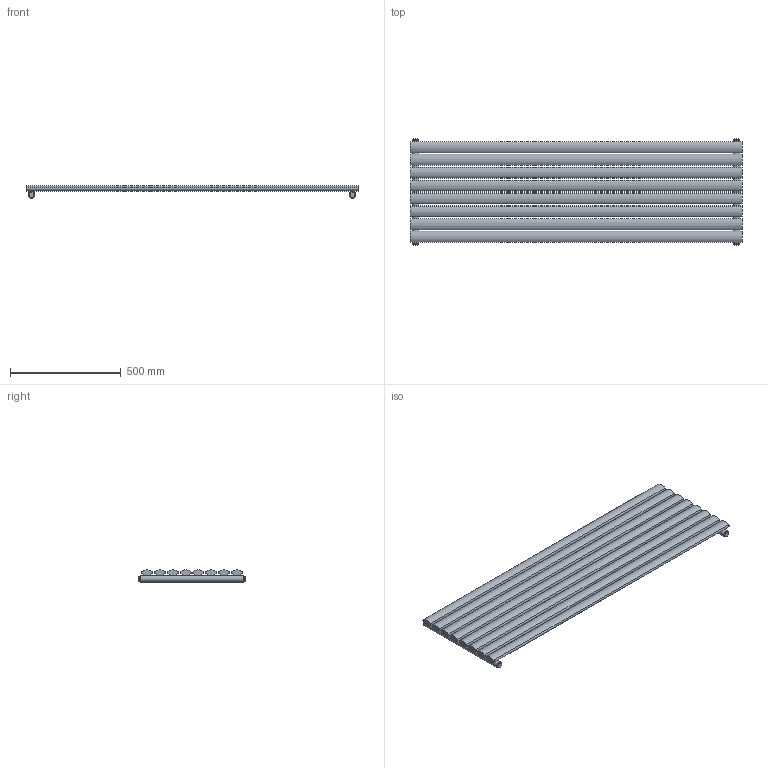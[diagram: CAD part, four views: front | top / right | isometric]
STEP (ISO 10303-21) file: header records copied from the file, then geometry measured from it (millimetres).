
FILE_DESCRIPTION(/* description */ (''),/* implementation_level */ '2;1');
FILE_NAME(/* name */ 'C:\Grzejniki\13DLUXRAD\pokojowe\FORTUNA\FORTUNA POJEDYNCZA 1500x468.iam.stp',/* time_stamp */ '2016-06-28T17:32:12+02:00',/* author */ ('m.szydziak'),/* organization */ (''),/* preprocessor_version */ 'ST-DEVELOPER v16.5',/* originating_system */ 'Autodesk Inventor 2017',/* authorisation */ '');
FILE_SCHEMA (('AUTOMOTIVE_DESIGN { 1 0 10303 214 3 1 1 }'));
Length unit declared in the file: millimetre
Products named in the file (5): FORTUNA POJEDYNCZA 1500x468; %%c30x1,5x468; 50x25x1,2x1500; zaślepka fi30 G0,5inch; korek
Assembly tree (18 placements, depth 2):
  FORTUNA POJEDYNCZA 1500x468
    %%c30x1,5x468  x2
    50x25x1,2x1500  x8
    zaślepka fi30 G0,5inch  x4
    korek  x4
Bounding box: 1500 x 480 x 54.86 mm (x, y, z)
Volume: 11653650.6 mm3; surface area: 1638052.7 mm2
Topology: 18 solids, 18 shells, 132 faces, 292 edges, 196 vertices
Faces by surface type: plane 84, cylinder 48
Full cylindrical faces by diameter (mm): 18.631 x4, 24 x4, 27 x6, 30 x2
Entity records: 1029 total; most frequent: DIRECTION 190, CARTESIAN_POINT 150, ORIENTED_EDGE 114, AXIS2_PLACEMENT_3D 81, EDGE_CURVE 57, VERTEX_POINT 41, EDGE_LOOP 38, FACE_OUTER_BOUND 29
